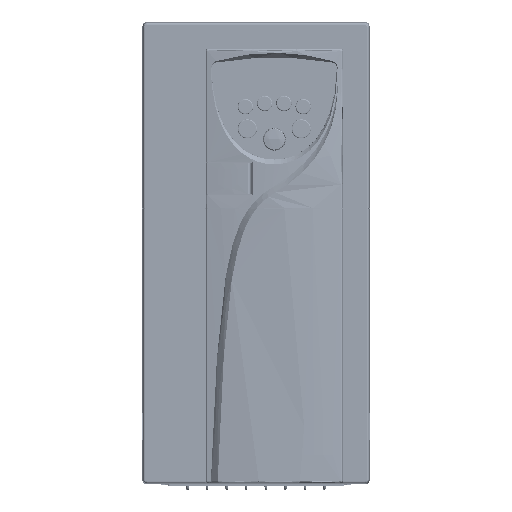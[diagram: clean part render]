
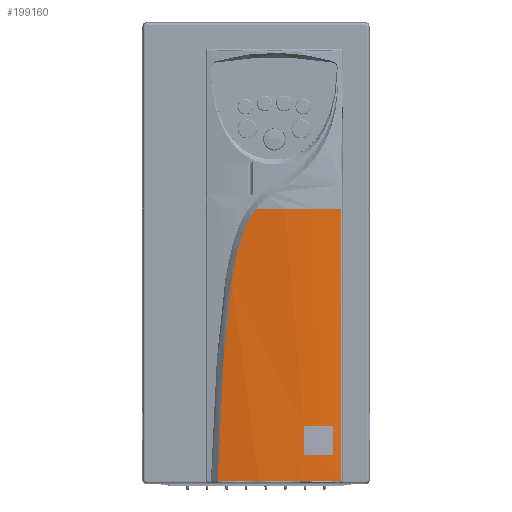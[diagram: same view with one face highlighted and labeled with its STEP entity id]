
A CAD part, top view. The second image highlights one B-rep face of the part: STEP entity #199160.
In plain terms, the highlighted cylindrical face has radius 220.5 mm (diameter 441 mm), a partial arc.
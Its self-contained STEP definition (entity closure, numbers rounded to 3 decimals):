
#449 = VERTEX_POINT ( 'NONE', #180753 ) ;
#662 = ORIENTED_EDGE ( 'NONE', *, *, #342053, .F. ) ;
#4089 = CARTESIAN_POINT ( 'NONE',  ( 44.137, 160.712, 118.377 ) ) ;
#10898 = VERTEX_POINT ( 'NONE', #282723 ) ;
#11159 = CARTESIAN_POINT ( 'NONE',  ( -5.331, 162.951, -13.876 ) ) ;
#21775 = AXIS2_PLACEMENT_3D ( 'NONE', #341952, #154701, #289379 ) ;
#23706 = CARTESIAN_POINT ( 'NONE',  ( 9.5, -57.05, 90. ) ) ;
#33934 = VERTEX_POINT ( 'NONE', #259958 ) ;
#33939 = CARTESIAN_POINT ( 'NONE',  ( -15.752, 161.999, 40.414 ) ) ;
#33954 = CARTESIAN_POINT ( 'NONE',  ( 9.5, -57.05, 105. ) ) ;
#34079 = EDGE_LOOP ( 'NONE', ( #160419, #176130, #95615, #345401 ) ) ;
#37387 = CARTESIAN_POINT ( 'NONE',  ( -5.018, 162.972, -14.562 ) ) ;
#38324 = EDGE_CURVE ( 'NONE', #449, #103102, #216366, .T. ) ;
#39117 = CARTESIAN_POINT ( 'NONE',  ( -13.064, 162.293, 16.568 ) ) ;
#44290 = CARTESIAN_POINT ( 'NONE',  ( -17.113, 161.838, 58.366 ) ) ;
#45374 = CARTESIAN_POINT ( 'NONE',  ( 1.427, 163.562, 118.278 ) ) ;
#49955 = DIRECTION ( 'NONE',  ( 0., 0., -1. ) ) ;
#52815 = ORIENTED_EDGE ( 'NONE', *, *, #207812, .T. ) ;
#60165 = CARTESIAN_POINT ( 'NONE',  ( -14.899, 162.096, 31.45 ) ) ;
#60179 = DIRECTION ( 'NONE',  ( 0., 0., 1. ) ) ;
#61911 = CARTESIAN_POINT ( 'NONE',  ( -5.927, 162.91, -12.494 ) ) ;
#71854 = CARTESIAN_POINT ( 'NONE',  ( -19.899, 161.481, 118.319 ) ) ;
#72207 = CARTESIAN_POINT ( 'NONE',  ( -17.832, 161.75, 70.35 ) ) ;
#74264 = CYLINDRICAL_SURFACE ( 'NONE', #21775, 220.5 ) ;
#75258 = DIRECTION ( 'NONE',  ( 0., 0., 1. ) ) ;
#82150 = VECTOR ( 'NONE', #336038, 1000. ) ;
#84735 = VECTOR ( 'NONE', #75258, 1000. ) ;
#85595 = ORIENTED_EDGE ( 'NONE', *, *, #108677, .T. ) ;
#85605 = VERTEX_POINT ( 'NONE', #203414 ) ;
#86402 = CARTESIAN_POINT ( 'NONE',  ( -11.59, 162.44, 7.697 ) ) ;
#91597 = CARTESIAN_POINT ( 'NONE',  ( -12.615, 162.339, 13.604 ) ) ;
#95582 = LINE ( 'NONE', #338710, #96755 ) ;
#95615 = ORIENTED_EDGE ( 'NONE', *, *, #128633, .T. ) ;
#96755 = VECTOR ( 'NONE', #49955, 1000. ) ;
#101550 = CARTESIAN_POINT ( 'NONE',  ( -19.899, 161.481, 118.329 ) ) ;
#102980 = CARTESIAN_POINT ( 'NONE',  ( 22.848, 163.306, 118.287 ) ) ;
#103102 = VERTEX_POINT ( 'NONE', #210280 ) ;
#105868 = DIRECTION ( 'NONE',  ( 0., 0., -1. ) ) ;
#107571 = DIRECTION ( 'NONE',  ( 1., 0., 0. ) ) ;
#108677 = EDGE_CURVE ( 'NONE', #10898, #449, #177644, .T. ) ;
#109214 = DIRECTION ( 'NONE',  ( 1., 0., 0. ) ) ;
#124078 = CARTESIAN_POINT ( 'NONE',  ( -19.899, 161.481, 118.35 ) ) ;
#128633 = EDGE_CURVE ( 'NONE', #165705, #85605, #268388, .T. ) ;
#137568 = ORIENTED_EDGE ( 'NONE', *, *, #38324, .T. ) ;
#140605 = CARTESIAN_POINT ( 'NONE',  ( -16.005, 161.97, 43.404 ) ) ;
#145538 = CARTESIAN_POINT ( 'NONE',  ( 9.5, -57.05, -22.9 ) ) ;
#145743 = EDGE_CURVE ( 'NONE', #281723, #318263, #326146, .T. ) ;
#147408 = CARTESIAN_POINT ( 'NONE',  ( -19.899, 161.481, 118.35 ) ) ;
#150949 = CARTESIAN_POINT ( 'NONE',  ( -19.484, 161.537, 106.322 ) ) ;
#153976 = LINE ( 'NONE', #232703, #84735 ) ;
#154701 = DIRECTION ( 'NONE',  ( 0., 0., 1. ) ) ;
#155479 = CARTESIAN_POINT ( 'NONE',  ( 33.553, 162.396, 118.318 ) ) ;
#160419 = ORIENTED_EDGE ( 'NONE', *, *, #236249, .T. ) ;
#160905 = AXIS2_PLACEMENT_3D ( 'NONE', #145538, #222526, #252257 ) ;
#165137 = CARTESIAN_POINT ( 'NONE',  ( -6.212, 162.89, -11.799 ) ) ;
#165705 = VERTEX_POINT ( 'NONE', #257807 ) ;
#168583 = CARTESIAN_POINT ( 'NONE',  ( -7.029, 162.83, -9.701 ) ) ;
#176130 = ORIENTED_EDGE ( 'NONE', *, *, #216042, .T. ) ;
#177644 = CIRCLE ( 'NONE', #160905, 220.5 ) ;
#179146 = EDGE_LOOP ( 'NONE', ( #85595, #137568, #662, #269665, #52815 ) ) ;
#180639 = CARTESIAN_POINT ( 'NONE',  ( -18.149, 161.71, 76.343 ) ) ;
#180753 = CARTESIAN_POINT ( 'NONE',  ( -0.002, 163.245, -22.9 ) ) ;
#186123 = FACE_BOUND ( 'NONE', #34079, .T. ) ;
#189657 = CARTESIAN_POINT ( 'NONE',  ( 25., 162.904, -138.35 ) ) ;
#193124 = CARTESIAN_POINT ( 'NONE',  ( -14.238, 162.169, 25.486 ) ) ;
#194680 = B_SPLINE_CURVE_WITH_KNOTS ( 'NONE', 3,
 ( #308085, #283539, #101550, #71854 ),
 .UNSPECIFIED., .F., .F.,
 ( 4, 4 ),
 ( 0., 0. ),
 .UNSPECIFIED. ) ;
#199160 = ADVANCED_FACE ( 'NONE', ( #313957, #186123 ), #74264, .T. ) ;
#203414 = CARTESIAN_POINT ( 'NONE',  ( 25., 162.904, 90. ) ) ;
#207812 = EDGE_CURVE ( 'NONE', #318263, #10898, #95582, .T. ) ;
#207899 = EDGE_CURVE ( 'NONE', #85605, #231198, #331530, .T. ) ;
#210280 = CARTESIAN_POINT ( 'NONE',  ( -19.899, 161.481, 118.319 ) ) ;
#216042 = EDGE_CURVE ( 'NONE', #33934, #165705, #322931, .T. ) ;
#216366 = B_SPLINE_CURVE_WITH_KNOTS ( 'NONE', 3,
 ( #221047, #301541, #217608, #37387, #11159, #61911, #165137, #168583, #250763, #219328, #326082, #331286, #86402, #91597, #39117, #252496, #193124, #60165, #273569, #33939, #140605, #247301, #44290, #72207, #180639, #306729, #150949, #287317 ),
 .UNSPECIFIED., .F., .F.,
 ( 4, 2, 2, 2, 2, 2, 2, 2, 2, 2, 2, 2, 2, 4 ),
 ( 0., 0.009, 0.011, 0.013, 0.018, 0.027, 0.036, 0.045, 0.054, 0.063, 0.072, 0.09, 0.108, 0.144 ),
 .UNSPECIFIED. ) ;
#217608 = CARTESIAN_POINT ( 'NONE',  ( -3.389, 163.077, -17.945 ) ) ;
#219328 = CARTESIAN_POINT ( 'NONE',  ( -8.9, 162.683, -4.008 ) ) ;
#221047 = CARTESIAN_POINT ( 'NONE',  ( -0.002, 163.245, -22.9 ) ) ;
#222526 = DIRECTION ( 'NONE',  ( 0., 0., 1. ) ) ;
#231198 = VERTEX_POINT ( 'NONE', #290489 ) ;
#232703 = CARTESIAN_POINT ( 'NONE',  ( 40., 161.33, -138.35 ) ) ;
#235921 = CARTESIAN_POINT ( 'NONE',  ( -9.29, 162.908, 118.301 ) ) ;
#236249 = EDGE_CURVE ( 'NONE', #231198, #33934, #153976, .T. ) ;
#247301 = CARTESIAN_POINT ( 'NONE',  ( -16.711, 161.887, 52.378 ) ) ;
#250763 = CARTESIAN_POINT ( 'NONE',  ( -7.525, 162.792, -8.287 ) ) ;
#252257 = DIRECTION ( 'NONE',  ( 1., 0., 0. ) ) ;
#252496 = CARTESIAN_POINT ( 'NONE',  ( -13.876, 162.208, 22.509 ) ) ;
#257807 = CARTESIAN_POINT ( 'NONE',  ( 25., 162.904, 105. ) ) ;
#259958 = CARTESIAN_POINT ( 'NONE',  ( 40., 161.33, 105. ) ) ;
#268388 = LINE ( 'NONE', #189657, #82150 ) ;
#269665 = ORIENTED_EDGE ( 'NONE', *, *, #145743, .T. ) ;
#273569 = CARTESIAN_POINT ( 'NONE',  ( -15.199, 162.062, 34.437 ) ) ;
#281723 = VERTEX_POINT ( 'NONE', #147408 ) ;
#282723 = CARTESIAN_POINT ( 'NONE',  ( 44.137, 160.712, -22.9 ) ) ;
#283539 = CARTESIAN_POINT ( 'NONE',  ( -19.9, 161.481, 118.34 ) ) ;
#287317 = CARTESIAN_POINT ( 'NONE',  ( -19.899, 161.481, 118.319 ) ) ;
#289379 = DIRECTION ( 'NONE',  ( 1., 0., 0. ) ) ;
#290489 = CARTESIAN_POINT ( 'NONE',  ( 40., 161.33, 90. ) ) ;
#301541 = CARTESIAN_POINT ( 'NONE',  ( -1.861, 163.165, -20.52 ) ) ;
#306729 = CARTESIAN_POINT ( 'NONE',  ( -19.015, 161.599, 94.327 ) ) ;
#308085 = CARTESIAN_POINT ( 'NONE',  ( -19.899, 161.481, 118.35 ) ) ;
#311256 = CARTESIAN_POINT ( 'NONE',  ( 44.137, 160.712, 118.377 ) ) ;
#313957 = FACE_OUTER_BOUND ( 'NONE', #179146, .T. ) ;
#314789 = AXIS2_PLACEMENT_3D ( 'NONE', #23706, #105868, #107571 ) ;
#318263 = VERTEX_POINT ( 'NONE', #4089 ) ;
#322931 = CIRCLE ( 'NONE', #339949, 220.5 ) ;
#326082 = CARTESIAN_POINT ( 'NONE',  ( -9.668, 162.616, -1.105 ) ) ;
#326146 = B_SPLINE_CURVE_WITH_KNOTS ( 'NONE', 3,
 ( #124078, #235921, #45374, #102980, #155479, #311256 ),
 .UNSPECIFIED., .F., .F.,
 ( 4, 2, 4 ),
 ( 0., 0.5, 1. ),
 .UNSPECIFIED. ) ;
#331286 = CARTESIAN_POINT ( 'NONE',  ( -11.014, 162.495, 4.753 ) ) ;
#331530 = CIRCLE ( 'NONE', #314789, 220.5 ) ;
#336038 = DIRECTION ( 'NONE',  ( 0., 0., -1. ) ) ;
#338710 = CARTESIAN_POINT ( 'NONE',  ( 44.137, 160.712, -138.35 ) ) ;
#339949 = AXIS2_PLACEMENT_3D ( 'NONE', #33954, #60179, #109214 ) ;
#341952 = CARTESIAN_POINT ( 'NONE',  ( 9.5, -57.05, -138.35 ) ) ;
#342053 = EDGE_CURVE ( 'NONE', #281723, #103102, #194680, .T. ) ;
#345401 = ORIENTED_EDGE ( 'NONE', *, *, #207899, .T. ) ;
